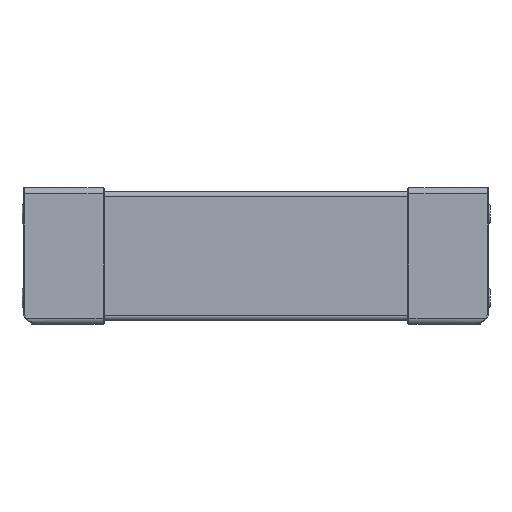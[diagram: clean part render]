
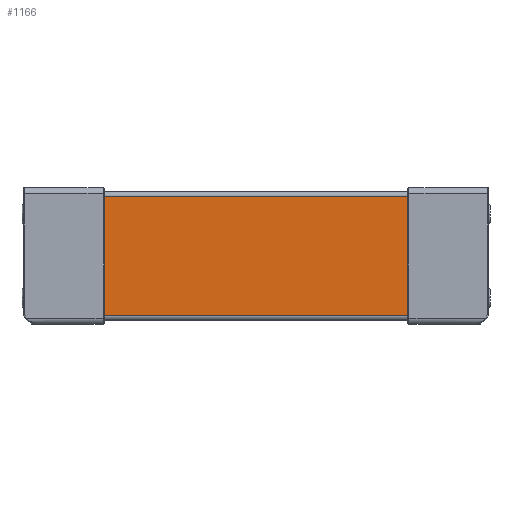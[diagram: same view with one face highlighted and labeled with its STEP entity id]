
A CAD part, top view. The second image highlights one B-rep face of the part: STEP entity #1166.
In plain terms, the highlighted planar face has unit normal (0, 0, 1).
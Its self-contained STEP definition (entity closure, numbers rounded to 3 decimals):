
#528 = VERTEX_POINT ( 'NONE', #1895 ) ;
#1012 = ORIENTED_EDGE ( 'NONE', *, *, #1034, .F. ) ;
#1017 = VERTEX_POINT ( 'NONE', #2881 ) ;
#1023 = EDGE_CURVE ( 'NONE', #528, #1025, #2936, .T. ) ;
#1024 = ORIENTED_EDGE ( 'NONE', *, *, #1030, .T. ) ;
#1025 = VERTEX_POINT ( 'NONE', #2932 ) ;
#1026 = ORIENTED_EDGE ( 'NONE', *, *, #1023, .F. ) ;
#1028 = ORIENTED_EDGE ( 'NONE', *, *, #1144, .T. ) ;
#1030 = EDGE_CURVE ( 'NONE', #1146, #1017, #2930, .T. ) ;
#1034 = EDGE_CURVE ( 'NONE', #1025, #1017, #2975, .T. ) ;
#1143 = EDGE_LOOP ( 'NONE', ( #1026, #1028, #1024, #1012 ) ) ;
#1144 = EDGE_CURVE ( 'NONE', #528, #1146, #3158, .T. ) ;
#1146 = VERTEX_POINT ( 'NONE', #3149 ) ;
#1166 = ADVANCED_FACE ( 'NONE', ( #3175 ), #3174, .F. ) ;
#1895 = CARTESIAN_POINT ( 'NONE',  ( 70.7, 27.9, 4.9 ) ) ;
#2881 = CARTESIAN_POINT ( 'NONE',  ( -70.7, -27.9, 4.9 ) ) ;
#2927 = DIRECTION ( 'NONE',  ( 0., -1., 0. ) ) ;
#2928 = VECTOR ( 'NONE', #2927, 1000. ) ;
#2929 = CARTESIAN_POINT ( 'NONE',  ( -70.7, 27.9, 4.9 ) ) ;
#2930 = LINE ( 'NONE', #2929, #2928 ) ;
#2932 = CARTESIAN_POINT ( 'NONE',  ( 70.7, -27.9, 4.9 ) ) ;
#2933 = DIRECTION ( 'NONE',  ( 0., -1., 0. ) ) ;
#2934 = VECTOR ( 'NONE', #2933, 1000. ) ;
#2935 = CARTESIAN_POINT ( 'NONE',  ( 70.7, 27.9, 4.9 ) ) ;
#2936 = LINE ( 'NONE', #2935, #2934 ) ;
#2972 = DIRECTION ( 'NONE',  ( -1., 0., 0. ) ) ;
#2973 = VECTOR ( 'NONE', #2972, 1000. ) ;
#2974 = CARTESIAN_POINT ( 'NONE',  ( 108.2, -27.9, 4.9 ) ) ;
#2975 = LINE ( 'NONE', #2974, #2973 ) ;
#3149 = CARTESIAN_POINT ( 'NONE',  ( -70.7, 27.9, 4.9 ) ) ;
#3155 = DIRECTION ( 'NONE',  ( -1., 0., 0. ) ) ;
#3156 = VECTOR ( 'NONE', #3155, 1000. ) ;
#3157 = CARTESIAN_POINT ( 'NONE',  ( 108.2, 27.9, 4.9 ) ) ;
#3158 = LINE ( 'NONE', #3157, #3156 ) ;
#3170 = DIRECTION ( 'NONE',  ( -1., 0., 0. ) ) ;
#3171 = DIRECTION ( 'NONE',  ( 0., 0., -1. ) ) ;
#3172 = CARTESIAN_POINT ( 'NONE',  ( 108.2, 27.9, 4.9 ) ) ;
#3173 = AXIS2_PLACEMENT_3D ( 'NONE', #3172, #3171, #3170 ) ;
#3174 = PLANE ( 'NONE',  #3173 ) ;
#3175 = FACE_OUTER_BOUND ( 'NONE', #1143, .T. ) ;
